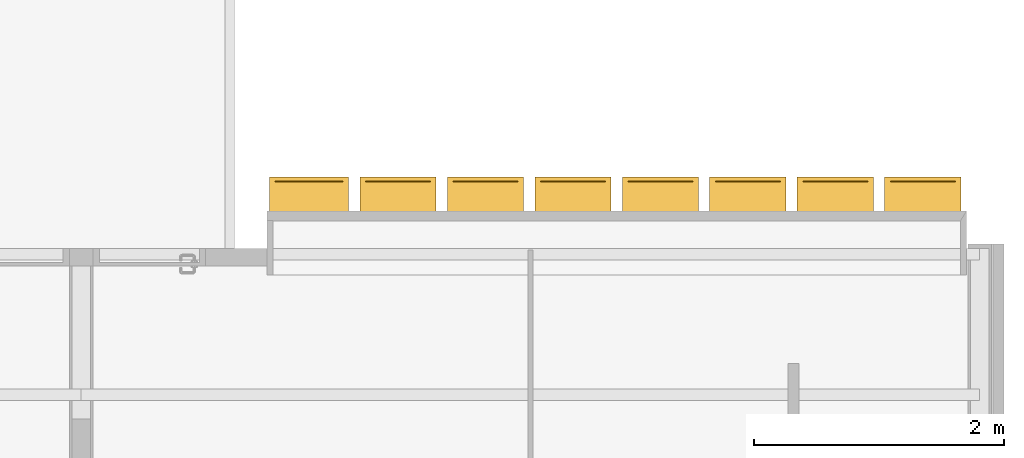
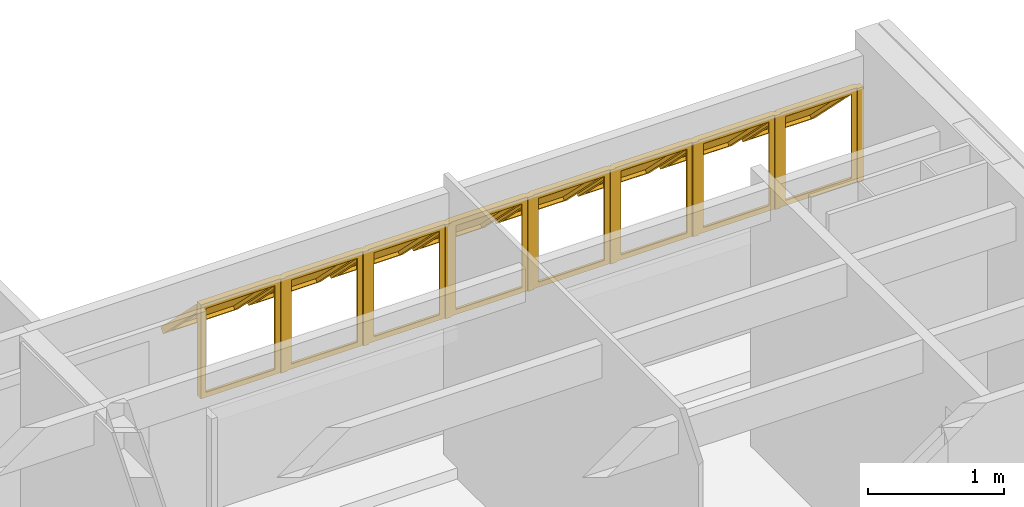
# One storey, part 18 of 22: 1 window.
"""IFC2X3 building model written with IfcOpenShell, lengths in millimetres."""

from ifc_helpers import new_model, si_unit, direction, frame, frame_2d, origin_with_axes, origin_2d_with_axis, place, context, subcontext, project, spatial, polyline, rectangle, outline, extrude, source, transform, mapped, type_object, type_shapes, element, save


model = new_model("IFC2X3")

# Units and contexts
model_context = context("Model", 3, precision=1e-05, world=origin_with_axes(), true_north=direction((0.0, 1.0)))
body_context = subcontext(model_context, "Body", "Model", "MODEL_VIEW")
ifc_project = project(units=[si_unit("LENGTHUNIT", "METRE", prefix="MILLI"), si_unit("AREAUNIT", "SQUARE_METRE"), si_unit("VOLUMEUNIT", "CUBIC_METRE"), si_unit("PLANEANGLEUNIT", "RADIAN"), si_unit("TIMEUNIT", "SECOND"), si_unit("MASSUNIT", "GRAM")], contexts=[model_context])

# Site, building, storey
site_placement = place(None, origin_with_axes())
site = spatial("IfcSite", under=ifc_project, at=site_placement, Name="Site", CompositionType="ELEMENT")
building_placement = place(site_placement, origin_with_axes())
building = spatial("IfcBuilding", under=site, at=building_placement, Name="Construção", CompositionType="COMPLEX")
storey_placement = place(building_placement, frame((0.0, 0.0, 2650.0), z_axis=(0.0, 0.0, 1.0), x_axis=(1.0, 0.0, 0.0)))
storey = spatial("IfcBuildingStorey", under=building, at=storey_placement, Name="Segundo Pavimento", CompositionType="COMPLEX", Elevation=2650.0)

# Window
window_style = type_object("IfcWindowStyle", ConstructionType="NOTDEFINED", OperationType="NOTDEFINED", ParameterTakesPrecedence=False, Sizeable=False)
shared_shape_1 = source(origin_with_axes(), body_context, "Body", "SweptSolid", [
    extrude(outline(polyline([(-324.99999695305, -22.5), (-279.99999695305, 22.5), (279.99999695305, 22.5), (324.99999695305, -22.5), (-324.99999695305, -22.5)])), frame((350.00000059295, 22.5, -40.0), z_axis=(0.0, 0.0, 1.0), x_axis=(1.0, 0.0, 0.0)), (0.0, 0.0, 1.0), 5.0),
    extrude(outline(polyline([(22.5, -422.499945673), (-22.5, -377.499945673), (-22.5, 377.499945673), (22.5, 422.499945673), (22.5, -422.499945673)])), frame((652.499997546, 422.499945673, -40.0), z_axis=(0.0, 0.0, 1.0), x_axis=(1.0, 0.0, 0.0)), (0.0, 0.0, 1.0), 5.0),
    extrude(outline(polyline([(-324.9999969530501, 22.5), (324.99999695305, 22.5), (279.99999695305, -22.5), (-279.9999969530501, -22.5), (-324.9999969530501, 22.5)])), frame((350.0000005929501, 822.499891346, -40.0), z_axis=(0.0, 0.0, 1.0), x_axis=(1.0, 0.0, 0.0)), (0.0, 0.0, 1.0), 5.0),
    extrude(outline(polyline([(-22.5, -422.499945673), (-22.5, 422.499945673), (22.5, 377.499945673), (22.5, -377.499945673), (-22.5, -422.499945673)])), frame((47.5000036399, 422.499945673, -40.0), z_axis=(0.0, 0.0, 1.0), x_axis=(1.0, 0.0, 0.0)), (0.0, 0.0, 1.0), 5.0),
    extrude(outline(polyline([(-324.99999695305, -10.0), (-304.99999695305, 10.0), (304.99999695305, 10.0), (324.99999695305, -10.0), (-324.99999695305, -10.0)])), frame((350.00000059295, 10.0, -35.0), z_axis=(0.0, 0.0, 1.0), x_axis=(1.0, 0.0, 0.0)), (0.0, 0.0, 1.0), 50.0),
    extrude(outline(polyline([(10.0, -422.499945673), (-10.0, -402.499945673), (-10.0, 402.499945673), (10.0, 422.499945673), (10.0, -422.499945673)])), frame((664.999997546, 422.499945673, -35.0), z_axis=(0.0, 0.0, 1.0), x_axis=(1.0, 0.0, 0.0)), (0.0, 0.0, 1.0), 50.0),
    extrude(outline(polyline([(-324.9999969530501, 10.0), (324.99999695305, 10.0), (304.99999695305, -10.0), (-304.9999969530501, -10.0), (-324.9999969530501, 10.0)])), frame((350.0000005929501, 834.999891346, -35.0), z_axis=(0.0, 0.0, 1.0), x_axis=(1.0, 0.0, 0.0)), (0.0, 0.0, 1.0), 50.0),
    extrude(outline(polyline([(-10.0, -422.499945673), (-10.0, 422.499945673), (10.0, 402.499945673), (10.0, -402.499945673), (-10.0, -422.499945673)])), frame((35.0000036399, 422.499945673, -35.0), z_axis=(0.0, 0.0, 1.0), x_axis=(1.0, 0.0, 0.0)), (0.0, 0.0, 1.0), 50.0),
    extrude(rectangle(XDim=844.999891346, YDim=19.99999787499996, at=frame_2d((0.0, 0.0), x_axis=(0.0, 1.0))), frame((684.9999964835, 422.499945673, -10.0), z_axis=(0.0, 0.0, 1.0), x_axis=(1.0, 0.0, 0.0)), (0.0, 0.0, 1.0), 20.0),
    extrude(rectangle(XDim=844.999891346, YDim=19.99999787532, at=frame_2d((0.0, 0.0), x_axis=(0.0, 1.0))), frame((15.00000470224, 422.499945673, -10.0), z_axis=(0.0, 0.0, 1.0), x_axis=(1.0, 0.0, 0.0)), (0.0, 0.0, 1.0), 20.0),
    extrude(outline(polyline([(22.5, -357.4999456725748), (-22.5, -402.4999456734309), (-22.50000000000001, 402.4999456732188), (22.5, 357.499945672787), (22.5, -357.4999456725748)])), frame((67.5000036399, 505.034111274, 264.2551019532), z_axis=(4.714640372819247e-12, 0.7071067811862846, 0.7071067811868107), x_axis=(1.0, 0.0, 0.0)), (0.0, 0.0, 1.0), 55.00000000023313),
    extrude(outline(polyline([(22.5, -402.4999456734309), (-22.5, -357.4999456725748), (-22.50000000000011, 357.499945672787), (22.5, 402.4999456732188), (22.5, -402.4999456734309)])), frame((632.499997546, 505.034111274, 264.2551019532), z_axis=(4.714640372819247e-12, 0.7071067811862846, 0.7071067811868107), x_axis=(1.0, 0.0, 0.0)), (0.0, 0.0, 1.0), 55.00000000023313),
    extrude(outline(polyline([(304.99999695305, -22.50000000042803), (-304.9999969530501, -22.50000000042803), (-259.9999969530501, 22.50000000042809), (259.99999695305, 22.50000000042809), (304.99999695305, -22.50000000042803)])), frame((350.00000059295, 236.333572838, 532.955640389), z_axis=(4.714640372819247e-12, 0.7071067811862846, 0.7071067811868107), x_axis=(1.0, 0.0, 0.0)), (0.0, 0.0, 1.0), 55.00000000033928),
    extrude(outline(polyline([(-304.9999969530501, 22.500000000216), (304.99999695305, 22.500000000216), (259.99999695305, -22.500000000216), (-259.9999969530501, -22.500000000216), (-304.9999969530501, 22.500000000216)])), frame((350.0000005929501, 773.73464971, -4.4454364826), z_axis=(4.714640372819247e-12, 0.7071067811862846, 0.7071067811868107), x_axis=(1.0, 0.0, 0.0)), (0.0, 0.0, 1.0), 55.00000000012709),
])
shared_shape_2 = source(origin_with_axes(), body_context, "Body", "SweptSolid", [
    extrude(rectangle(XDim=519.9999939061, YDim=16.00000000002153, at=origin_2d_with_axis()), frame((350.00000059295, 783.9876980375, 37.627416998), z_axis=(0.0, -0.7071067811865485, 0.7071067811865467), x_axis=(1.0, 0.0, 0.0)), (0.0, 0.0, 1.0), 714.9998913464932),
])
shared_shape_3 = source(origin_with_axes(), body_context, "Body", "MappedRepresentation", [
    mapped(shared_shape_1, transform((12370.0, 8250.0, 4005.00007107), x_axis=(-1.0, 0.0, 0.0), y_axis=(0.0, 0.0, 1.0), z_axis=(0.0, 1.0, 0.0), scale=1.0)),
    mapped(shared_shape_2, transform((12370.0, 8250.0, 4005.00007107), x_axis=(-1.0, 0.0, 0.0), y_axis=(0.0, 0.0, 1.0), z_axis=(0.0, 1.0, 0.0), scale=1.0)),
])
shared_shape_4 = source(origin_with_axes(), body_context, "Body", "MappedRepresentation", [
    mapped(shared_shape_1, transform((10270.0, 8250.0, 4005.00007107), x_axis=(-1.0, 0.0, 0.0), y_axis=(0.0, 0.0, 1.0), z_axis=(0.0, 1.0, 0.0), scale=1.0)),
    mapped(shared_shape_2, transform((10270.0, 8250.0, 4005.00007107), x_axis=(-1.0, 0.0, 0.0), y_axis=(0.0, 0.0, 1.0), z_axis=(0.0, 1.0, 0.0), scale=1.0)),
])
shared_shape_5 = source(origin_with_axes(), body_context, "Body", "SweptSolid", [
    extrude(outline(polyline([(-324.99999695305, -22.5), (-279.99999695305, 22.5), (279.99999695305, 22.5), (324.99999695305, -22.5), (-324.99999695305, -22.5)])), frame((350.00000059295, 22.5, -40.0), z_axis=(0.0, 0.0, 1.0), x_axis=(1.0, 0.0, 0.0)), (0.0, 0.0, 1.0), 5.0),
    extrude(outline(polyline([(22.5, -422.499945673), (-22.5, -377.499945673), (-22.5, 377.499945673), (22.5, 422.499945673), (22.5, -422.499945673)])), frame((652.499997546, 422.499945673, -40.0), z_axis=(0.0, 0.0, 1.0), x_axis=(1.0, 0.0, 0.0)), (0.0, 0.0, 1.0), 5.0),
    extrude(outline(polyline([(-324.9999969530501, 22.5), (324.99999695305, 22.5), (279.99999695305, -22.5), (-279.9999969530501, -22.5), (-324.9999969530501, 22.5)])), frame((350.0000005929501, 822.499891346, -40.0), z_axis=(0.0, 0.0, 1.0), x_axis=(1.0, 0.0, 0.0)), (0.0, 0.0, 1.0), 5.0),
    extrude(outline(polyline([(-22.5, -422.499945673), (-22.5, 422.499945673), (22.5, 377.499945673), (22.5, -377.499945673), (-22.5, -422.499945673)])), frame((47.5000036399, 422.499945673, -40.0), z_axis=(0.0, 0.0, 1.0), x_axis=(1.0, 0.0, 0.0)), (0.0, 0.0, 1.0), 5.0),
    extrude(outline(polyline([(-324.99999695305, -10.0), (-304.99999695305, 10.0), (304.99999695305, 10.0), (324.99999695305, -10.0), (-324.99999695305, -10.0)])), frame((350.00000059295, 10.0, -35.0), z_axis=(0.0, 0.0, 1.0), x_axis=(1.0, 0.0, 0.0)), (0.0, 0.0, 1.0), 50.0),
    extrude(outline(polyline([(10.0, -422.499945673), (-10.0, -402.499945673), (-10.0, 402.499945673), (10.0, 422.499945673), (10.0, -422.499945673)])), frame((664.999997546, 422.499945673, -35.0), z_axis=(0.0, 0.0, 1.0), x_axis=(1.0, 0.0, 0.0)), (0.0, 0.0, 1.0), 50.0),
    extrude(outline(polyline([(-324.9999969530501, 10.0), (324.99999695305, 10.0), (304.99999695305, -10.0), (-304.9999969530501, -10.0), (-324.9999969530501, 10.0)])), frame((350.0000005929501, 834.999891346, -35.0), z_axis=(0.0, 0.0, 1.0), x_axis=(1.0, 0.0, 0.0)), (0.0, 0.0, 1.0), 50.0),
    extrude(outline(polyline([(-10.0, -422.499945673), (-10.0, 422.499945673), (10.0, 402.499945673), (10.0, -402.499945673), (-10.0, -422.499945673)])), frame((35.0000036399, 422.499945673, -35.0), z_axis=(0.0, 0.0, 1.0), x_axis=(1.0, 0.0, 0.0)), (0.0, 0.0, 1.0), 50.0),
    extrude(rectangle(XDim=844.999891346, YDim=19.99999787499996, at=frame_2d((0.0, 0.0), x_axis=(0.0, 1.0))), frame((684.9999964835, 422.499945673, -10.0), z_axis=(0.0, 0.0, 1.0), x_axis=(1.0, 0.0, 0.0)), (0.0, 0.0, 1.0), 20.0),
    extrude(rectangle(XDim=844.999891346, YDim=19.99999787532, at=frame_2d((0.0, 0.0), x_axis=(0.0, 1.0))), frame((15.00000470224, 422.499945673, -10.0), z_axis=(0.0, 0.0, 1.0), x_axis=(1.0, 0.0, 0.0)), (0.0, 0.0, 1.0), 20.0),
    extrude(outline(polyline([(22.5, -357.4999456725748), (-22.5, -402.4999456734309), (-22.50000000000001, 402.4999456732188), (22.5, 357.499945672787), (22.5, -357.4999456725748)])), frame((67.5000036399, 505.034111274, 264.2551019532), z_axis=(4.714640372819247e-12, 0.7071067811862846, 0.7071067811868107), x_axis=(1.0, 0.0, 0.0)), (0.0, 0.0, 1.0), 55.00000000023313),
    extrude(outline(polyline([(22.5, -402.4999456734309), (-22.5, -357.4999456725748), (-22.50000000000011, 357.499945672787), (22.5, 402.4999456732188), (22.5, -402.4999456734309)])), frame((632.499997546, 505.034111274, 264.2551019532), z_axis=(4.714640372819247e-12, 0.7071067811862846, 0.7071067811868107), x_axis=(1.0, 0.0, 0.0)), (0.0, 0.0, 1.0), 55.00000000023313),
    extrude(outline(polyline([(304.99999695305, -22.50000000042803), (-304.9999969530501, -22.50000000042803), (-259.9999969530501, 22.50000000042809), (259.99999695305, 22.50000000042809), (304.99999695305, -22.50000000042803)])), frame((350.00000059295, 236.333572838, 532.955640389), z_axis=(4.714640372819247e-12, 0.7071067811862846, 0.7071067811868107), x_axis=(1.0, 0.0, 0.0)), (0.0, 0.0, 1.0), 55.00000000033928),
    extrude(outline(polyline([(-304.9999969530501, 22.500000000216), (304.99999695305, 22.500000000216), (259.99999695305, -22.500000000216), (-259.9999969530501, -22.500000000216), (-304.9999969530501, 22.500000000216)])), frame((350.0000005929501, 773.73464971, -4.4454364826), z_axis=(4.714640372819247e-12, 0.7071067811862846, 0.7071067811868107), x_axis=(1.0, 0.0, 0.0)), (0.0, 0.0, 1.0), 55.00000000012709),
])
shared_shape_6 = source(origin_with_axes(), body_context, "Body", "SweptSolid", [
    extrude(rectangle(XDim=519.9999939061, YDim=16.00000000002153, at=origin_2d_with_axis()), frame((350.00000059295, 783.9876980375, 37.627416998), z_axis=(0.0, -0.7071067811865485, 0.7071067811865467), x_axis=(1.0, 0.0, 0.0)), (0.0, 0.0, 1.0), 714.9998913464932),
])
shared_shape_7 = source(origin_with_axes(), body_context, "Body", "MappedRepresentation", [
    mapped(shared_shape_5, transform((14470.0, 8250.0, 4005.00007107), x_axis=(-1.0, 0.0, 0.0), y_axis=(0.0, 0.0, 1.0), z_axis=(0.0, 1.0, 0.0), scale=1.0)),
    mapped(shared_shape_6, transform((14470.0, 8250.0, 4005.00007107), x_axis=(-1.0, 0.0, 0.0), y_axis=(0.0, 0.0, 1.0), z_axis=(0.0, 1.0, 0.0), scale=1.0)),
])
shared_shape_8 = source(origin_with_axes(), body_context, "Body", "MappedRepresentation", [
    mapped(shared_shape_5, transform((13770.0, 8250.0, 4005.00007107), x_axis=(-1.0, 0.0, 0.0), y_axis=(0.0, 0.0, 1.0), z_axis=(0.0, 1.0, 0.0), scale=1.0)),
    mapped(shared_shape_6, transform((13770.0, 8250.0, 4005.00007107), x_axis=(-1.0, 0.0, 0.0), y_axis=(0.0, 0.0, 1.0), z_axis=(0.0, 1.0, 0.0), scale=1.0)),
])
shared_shape_9 = source(origin_with_axes(), body_context, "Body", "SweptSolid", [
    extrude(outline(polyline([(-324.99999695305, -22.5), (-279.99999695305, 22.5), (279.99999695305, 22.5), (324.99999695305, -22.5), (-324.99999695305, -22.5)])), frame((350.00000059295, 22.5, -40.0), z_axis=(0.0, 0.0, 1.0), x_axis=(1.0, 0.0, 0.0)), (0.0, 0.0, 1.0), 5.0),
    extrude(outline(polyline([(22.5, -422.499945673), (-22.5, -377.499945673), (-22.5, 377.499945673), (22.5, 422.499945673), (22.5, -422.499945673)])), frame((652.499997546, 422.499945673, -40.0), z_axis=(0.0, 0.0, 1.0), x_axis=(1.0, 0.0, 0.0)), (0.0, 0.0, 1.0), 5.0),
    extrude(outline(polyline([(-324.9999969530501, 22.5), (324.99999695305, 22.5), (279.99999695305, -22.5), (-279.9999969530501, -22.5), (-324.9999969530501, 22.5)])), frame((350.0000005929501, 822.499891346, -40.0), z_axis=(0.0, 0.0, 1.0), x_axis=(1.0, 0.0, 0.0)), (0.0, 0.0, 1.0), 5.0),
    extrude(outline(polyline([(-22.5, -422.499945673), (-22.5, 422.499945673), (22.5, 377.499945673), (22.5, -377.499945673), (-22.5, -422.499945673)])), frame((47.5000036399, 422.499945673, -40.0), z_axis=(0.0, 0.0, 1.0), x_axis=(1.0, 0.0, 0.0)), (0.0, 0.0, 1.0), 5.0),
    extrude(outline(polyline([(-324.99999695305, -10.0), (-304.99999695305, 10.0), (304.99999695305, 10.0), (324.99999695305, -10.0), (-324.99999695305, -10.0)])), frame((350.00000059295, 10.0, -35.0), z_axis=(0.0, 0.0, 1.0), x_axis=(1.0, 0.0, 0.0)), (0.0, 0.0, 1.0), 50.0),
    extrude(outline(polyline([(10.0, -422.499945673), (-10.0, -402.499945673), (-10.0, 402.499945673), (10.0, 422.499945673), (10.0, -422.499945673)])), frame((664.999997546, 422.499945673, -35.0), z_axis=(0.0, 0.0, 1.0), x_axis=(1.0, 0.0, 0.0)), (0.0, 0.0, 1.0), 50.0),
    extrude(outline(polyline([(-324.9999969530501, 10.0), (324.99999695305, 10.0), (304.99999695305, -10.0), (-304.9999969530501, -10.0), (-324.9999969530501, 10.0)])), frame((350.0000005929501, 834.999891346, -35.0), z_axis=(0.0, 0.0, 1.0), x_axis=(1.0, 0.0, 0.0)), (0.0, 0.0, 1.0), 50.0),
    extrude(outline(polyline([(-10.0, -422.499945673), (-10.0, 422.499945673), (10.0, 402.499945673), (10.0, -402.499945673), (-10.0, -422.499945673)])), frame((35.0000036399, 422.499945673, -35.0), z_axis=(0.0, 0.0, 1.0), x_axis=(1.0, 0.0, 0.0)), (0.0, 0.0, 1.0), 50.0),
    extrude(rectangle(XDim=844.999891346, YDim=19.99999787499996, at=frame_2d((0.0, 0.0), x_axis=(0.0, 1.0))), frame((684.9999964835, 422.499945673, -10.0), z_axis=(0.0, 0.0, 1.0), x_axis=(1.0, 0.0, 0.0)), (0.0, 0.0, 1.0), 20.0),
    extrude(rectangle(XDim=844.999891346, YDim=19.99999787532, at=frame_2d((0.0, 0.0), x_axis=(0.0, 1.0))), frame((15.00000470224, 422.499945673, -10.0), z_axis=(0.0, 0.0, 1.0), x_axis=(1.0, 0.0, 0.0)), (0.0, 0.0, 1.0), 20.0),
    extrude(outline(polyline([(22.5, -357.4999456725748), (-22.5, -402.4999456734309), (-22.50000000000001, 402.4999456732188), (22.5, 357.499945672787), (22.5, -357.4999456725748)])), frame((67.5000036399, 505.034111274, 264.2551019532), z_axis=(4.714640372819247e-12, 0.7071067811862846, 0.7071067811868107), x_axis=(1.0, 0.0, 0.0)), (0.0, 0.0, 1.0), 55.00000000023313),
    extrude(outline(polyline([(22.5, -402.4999456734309), (-22.5, -357.4999456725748), (-22.50000000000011, 357.499945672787), (22.5, 402.4999456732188), (22.5, -402.4999456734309)])), frame((632.499997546, 505.034111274, 264.2551019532), z_axis=(4.714640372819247e-12, 0.7071067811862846, 0.7071067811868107), x_axis=(1.0, 0.0, 0.0)), (0.0, 0.0, 1.0), 55.00000000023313),
    extrude(outline(polyline([(304.99999695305, -22.50000000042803), (-304.9999969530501, -22.50000000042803), (-259.9999969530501, 22.50000000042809), (259.99999695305, 22.50000000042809), (304.99999695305, -22.50000000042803)])), frame((350.00000059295, 236.333572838, 532.955640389), z_axis=(4.714640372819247e-12, 0.7071067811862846, 0.7071067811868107), x_axis=(1.0, 0.0, 0.0)), (0.0, 0.0, 1.0), 55.00000000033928),
    extrude(outline(polyline([(-304.9999969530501, 22.500000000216), (304.99999695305, 22.500000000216), (259.99999695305, -22.500000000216), (-259.9999969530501, -22.500000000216), (-304.9999969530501, 22.500000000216)])), frame((350.0000005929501, 773.73464971, -4.4454364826), z_axis=(4.714640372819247e-12, 0.7071067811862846, 0.7071067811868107), x_axis=(1.0, 0.0, 0.0)), (0.0, 0.0, 1.0), 55.00000000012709),
])
shared_shape_10 = source(origin_with_axes(), body_context, "Body", "SweptSolid", [
    extrude(rectangle(XDim=519.9999939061, YDim=16.00000000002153, at=origin_2d_with_axis()), frame((350.00000059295, 783.9876980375, 37.627416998), z_axis=(0.0, -0.7071067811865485, 0.7071067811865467), x_axis=(1.0, 0.0, 0.0)), (0.0, 0.0, 1.0), 714.9998913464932),
])
shared_shape_11 = source(origin_with_axes(), body_context, "Body", "MappedRepresentation", [
    mapped(shared_shape_9, transform((11670.0, 8250.0, 4005.00007107), x_axis=(-1.0, 0.0, 0.0), y_axis=(0.0, 0.0, 1.0), z_axis=(0.0, 1.0, 0.0), scale=1.0)),
    mapped(shared_shape_10, transform((11670.0, 8250.0, 4005.00007107), x_axis=(-1.0, 0.0, 0.0), y_axis=(0.0, 0.0, 1.0), z_axis=(0.0, 1.0, 0.0), scale=1.0)),
])
shared_shape_12 = source(origin_with_axes(), body_context, "Body", "MappedRepresentation", [
    mapped(shared_shape_5, transform((10970.0, 8250.0, 4005.00007107), x_axis=(-1.0, 0.0, 0.0), y_axis=(0.0, 0.0, 1.0), z_axis=(0.0, 1.0, 0.0), scale=1.0)),
    mapped(shared_shape_6, transform((10970.0, 8250.0, 4005.00007107), x_axis=(-1.0, 0.0, 0.0), y_axis=(0.0, 0.0, 1.0), z_axis=(0.0, 1.0, 0.0), scale=1.0)),
])
shared_shape_13 = source(origin_with_axes(), body_context, "Body", "SweptSolid", [
    extrude(outline(polyline([(-337.49999657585, -22.5), (-292.49999657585, 22.5), (292.49999657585, 22.5), (337.49999657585, -22.5), (-337.49999657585, -22.5)])), frame((362.50000285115, 22.5, -40.0), z_axis=(0.0, 0.0, 1.0), x_axis=(1.0, 0.0, 0.0)), (0.0, 0.0, 1.0), 5.0),
    extrude(outline(polyline([(22.5, -422.4999902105), (-22.5, -377.4999902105), (-22.5, 377.4999902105), (22.5, 422.4999902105), (22.5, -422.4999902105)])), frame((677.499999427, 422.4999902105, -40.0), z_axis=(0.0, 0.0, 1.0), x_axis=(1.0, 0.0, 0.0)), (0.0, 0.0, 1.0), 5.0),
    extrude(outline(polyline([(-337.49999657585, 22.5), (337.49999657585, 22.5), (292.49999657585, -22.5), (-292.49999657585, -22.5), (-337.49999657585, 22.5)])), frame((362.50000285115, 822.499980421, -40.0), z_axis=(0.0, 0.0, 1.0), x_axis=(1.0, 0.0, 0.0)), (0.0, 0.0, 1.0), 5.0),
    extrude(outline(polyline([(-22.5, -422.4999902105), (-22.5, 422.4999902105), (22.5, 377.4999902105), (22.5, -377.4999902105), (-22.5, -422.4999902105)])), frame((47.5000062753, 422.4999902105, -40.0), z_axis=(0.0, 0.0, 1.0), x_axis=(1.0, 0.0, 0.0)), (0.0, 0.0, 1.0), 5.0),
    extrude(outline(polyline([(-337.49999657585, -10.0), (-317.49999657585, 10.0), (317.49999657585, 10.0), (337.49999657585, -10.0), (-337.49999657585, -10.0)])), frame((362.50000285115, 10.0, -35.0), z_axis=(0.0, 0.0, 1.0), x_axis=(1.0, 0.0, 0.0)), (0.0, 0.0, 1.0), 50.0),
    extrude(outline(polyline([(10.0, -422.4999902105), (-10.0, -402.4999902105), (-10.0, 402.4999902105), (10.0, 422.4999902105), (10.0, -422.4999902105)])), frame((689.999999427, 422.4999902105, -35.0), z_axis=(0.0, 0.0, 1.0), x_axis=(1.0, 0.0, 0.0)), (0.0, 0.0, 1.0), 50.0),
    extrude(outline(polyline([(-337.49999657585, 10.0), (337.49999657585, 10.0), (317.49999657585, -10.0), (-317.49999657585, -10.0), (-337.49999657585, 10.0)])), frame((362.50000285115, 834.999980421, -35.0), z_axis=(0.0, 0.0, 1.0), x_axis=(1.0, 0.0, 0.0)), (0.0, 0.0, 1.0), 50.0),
    extrude(outline(polyline([(-10.0, -422.4999902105), (-10.0, 422.4999902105), (10.0, 402.4999902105), (10.0, -402.4999902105), (-10.0, -422.4999902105)])), frame((35.0000062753, 422.4999902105, -35.0), z_axis=(0.0, 0.0, 1.0), x_axis=(1.0, 0.0, 0.0)), (0.0, 0.0, 1.0), 50.0),
    extrude(rectangle(XDim=844.999980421, YDim=19.99999998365, at=frame_2d((0.0, 0.0), x_axis=(0.0, 1.0))), frame((15.000006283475, 422.4999902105, -10.0), z_axis=(0.0, 0.0, 1.0), x_axis=(1.0, 0.0, 0.0)), (0.0, 0.0, 1.0), 20.0),
    extrude(outline(polyline([(22.50000000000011, -357.4999902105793), (-22.5, -402.4999902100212), (-22.5, 402.4999902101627), (22.50000000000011, 357.4999902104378), (22.50000000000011, -357.4999902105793)])), frame((67.5000062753, 505.034168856, 264.25513344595), z_axis=(4.714640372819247e-12, 0.7071067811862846, 0.7071067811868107), x_axis=(1.0, 0.0, 0.0)), (0.0, 0.0, 1.0), 54.99999999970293),
    extrude(outline(polyline([(22.50000000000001, -402.4999902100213), (-22.49999999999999, -357.4999902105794), (-22.49999999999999, 357.4999902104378), (22.50000000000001, 402.4999902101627), (22.50000000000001, -402.4999902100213)])), frame((657.499999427, 505.034168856, 264.25513344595), z_axis=(4.714640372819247e-12, 0.7071067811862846, 0.7071067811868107), x_axis=(1.0, 0.0, 0.0)), (0.0, 0.0, 1.0), 54.99999999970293),
    extrude(outline(polyline([(317.49999657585, -22.49999999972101), (-317.49999657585, -22.49999999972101), (-272.49999657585, 22.49999999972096), (272.49999657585, 22.49999999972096), (317.49999657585, -22.49999999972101)])), frame((362.50000285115, 236.3335989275, 532.9557033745), z_axis=(4.714640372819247e-12, 0.7071067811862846, 0.7071067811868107), x_axis=(1.0, 0.0, 0.0)), (0.0, 0.0, 1.0), 54.9999999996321),
    extrude(outline(polyline([(-317.49999657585, 22.49999999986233), (317.49999657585, 22.49999999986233), (272.49999657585, -22.49999999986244), (-272.49999657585, -22.49999999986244), (-317.49999657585, 22.49999999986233)])), frame((362.50000285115, 773.7347387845, -4.4454364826), z_axis=(4.714640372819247e-12, 0.7071067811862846, 0.7071067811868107), x_axis=(1.0, 0.0, 0.0)), (0.0, 0.0, 1.0), 54.99999999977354),
])
shared_shape_14 = source(origin_with_axes(), body_context, "Body", "SweptSolid", [
    extrude(rectangle(XDim=544.9999931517, YDim=16.00000000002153, at=origin_2d_with_axis()), frame((362.50000285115, 783.9877871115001, 37.627416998), z_axis=(0.0, -0.7071067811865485, 0.7071067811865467), x_axis=(1.0, 0.0, 0.0)), (0.0, 0.0, 1.0), 714.9999804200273),
])
shared_shape_15 = source(origin_with_axes(), body_context, "Body", "MappedRepresentation", [
    mapped(shared_shape_13, transform((9570.0, 8250.0, 4005.00007107), x_axis=(-1.0, 0.0, 0.0), y_axis=(0.0, 0.0, 1.0), z_axis=(0.0, 1.0, 0.0), scale=1.0)),
    mapped(shared_shape_14, transform((9570.0, 8250.0, 4005.00007107), x_axis=(-1.0, 0.0, 0.0), y_axis=(0.0, 0.0, 1.0), z_axis=(0.0, 1.0, 0.0), scale=1.0)),
])
shared_shape_16 = source(origin_with_axes(), body_context, "Body", "MappedRepresentation", [
    mapped(shared_shape_9, transform((13070.0, 8250.0, 4005.00007107), x_axis=(-1.0, 0.0, 0.0), y_axis=(0.0, 0.0, 1.0), z_axis=(0.0, 1.0, 0.0), scale=1.0)),
    mapped(shared_shape_10, transform((13070.0, 8250.0, 4005.00007107), x_axis=(-1.0, 0.0, 0.0), y_axis=(0.0, 0.0, 1.0), z_axis=(0.0, 1.0, 0.0), scale=1.0)),
])
shared_shape_17 = source(origin_with_axes(), body_context, "Body", "SweptSolid", [
    extrude(rectangle(XDim=844.999891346, YDim=50.0, at=frame_2d((0.0, 0.0), x_axis=(0.0, 1.0))), frame((3525.0, 422.4999456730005, -637.7564789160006), z_axis=(0.0, 0.0, 1.0), x_axis=(1.0, 0.0, 0.0)), (0.0, 0.0, 1.0), 50.0),
])
shared_shape_18 = source(origin_with_axes(), body_context, "Body", "SweptSolid", [
    extrude(rectangle(XDim=844.999891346, YDim=50.0, at=frame_2d((0.0, 0.0), x_axis=(0.0, 1.0))), frame((4225.0, 422.4999456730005, -637.7564789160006), z_axis=(0.0, 0.0, 1.0), x_axis=(1.0, 0.0, 0.0)), (0.0, 0.0, 1.0), 50.0),
])
shared_shape_19 = source(origin_with_axes(), body_context, "Body", "SweptSolid", [
    extrude(rectangle(XDim=844.999891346, YDim=50.0, at=frame_2d((0.0, 0.0), x_axis=(0.0, 1.0))), frame((4925.0, 422.4999456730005, -637.7564789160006), z_axis=(0.0, 0.0, 1.0), x_axis=(1.0, 0.0, 0.0)), (0.0, 0.0, 1.0), 50.0),
])
shared_shape_20 = source(origin_with_axes(), body_context, "Body", "SweptSolid", [
    extrude(rectangle(XDim=844.999891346, YDim=50.0, at=frame_2d((0.0, 0.0), x_axis=(0.0, 1.0))), frame((2125.0, 422.4999456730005, -637.7564789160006), z_axis=(0.0, 0.0, 1.0), x_axis=(1.0, 0.0, 0.0)), (0.0, 0.0, 1.0), 50.0),
])
shared_shape_21 = source(origin_with_axes(), body_context, "Body", "SweptSolid", [
    extrude(rectangle(XDim=844.999891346, YDim=50.0, at=frame_2d((0.0, 0.0), x_axis=(0.0, 1.0))), frame((25.0, 422.4999456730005, -637.7564789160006), z_axis=(0.0, 0.0, 1.0), x_axis=(1.0, 0.0, 0.0)), (0.0, 0.0, 1.0), 50.0),
])
shared_shape_22 = source(origin_with_axes(), body_context, "Body", "SweptSolid", [
    extrude(rectangle(XDim=844.999891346, YDim=50.0, at=frame_2d((0.0, 0.0), x_axis=(0.0, 1.0))), frame((2825.0, 422.4999456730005, -637.7564789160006), z_axis=(0.0, 0.0, 1.0), x_axis=(1.0, 0.0, 0.0)), (0.0, 0.0, 1.0), 50.0),
])
shared_shape_23 = source(origin_with_axes(), body_context, "Body", "SweptSolid", [
    extrude(rectangle(XDim=844.999891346, YDim=50.0, at=frame_2d((0.0, 0.0), x_axis=(0.0, 1.0))), frame((1425.0, 422.4999456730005, -637.7564789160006), z_axis=(0.0, 0.0, 1.0), x_axis=(1.0, 0.0, 0.0)), (0.0, 0.0, 1.0), 50.0),
])
shared_shape_24 = source(origin_with_axes(), body_context, "Body", "SweptSolid", [
    extrude(rectangle(XDim=844.999891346, YDim=50.0, at=frame_2d((0.0, 0.0), x_axis=(0.0, 1.0))), frame((725.0, 422.4999456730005, -637.7564789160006), z_axis=(0.0, 0.0, 1.0), x_axis=(1.0, 0.0, 0.0)), (0.0, 0.0, 1.0), 50.0),
])
shared_shape_25 = source(origin_with_axes(), body_context, "Body", "MappedRepresentation", [
    mapped(shared_shape_3, transform((14495.0, -4005.00007107, -8837.756478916), x_axis=(-1.0, 0.0, 0.0), y_axis=(0.0, 0.0, 1.0), z_axis=(0.0, 1.0, 0.0), scale=1.0)),
    mapped(shared_shape_4, transform((14495.0, -4005.00007107, -8837.756478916), x_axis=(-1.0, 0.0, 0.0), y_axis=(0.0, 0.0, 1.0), z_axis=(0.0, 1.0, 0.0), scale=1.0)),
    mapped(shared_shape_7, transform((14495.0, -4005.00007107, -8837.756478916), x_axis=(-1.0, 0.0, 0.0), y_axis=(0.0, 0.0, 1.0), z_axis=(0.0, 1.0, 0.0), scale=1.0)),
    mapped(shared_shape_8, transform((14495.0, -4005.00007107, -8837.756478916), x_axis=(-1.0, 0.0, 0.0), y_axis=(0.0, 0.0, 1.0), z_axis=(0.0, 1.0, 0.0), scale=1.0)),
    mapped(shared_shape_11, transform((14495.0, -4005.00007107, -8837.756478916), x_axis=(-1.0, 0.0, 0.0), y_axis=(0.0, 0.0, 1.0), z_axis=(0.0, 1.0, 0.0), scale=1.0)),
    mapped(shared_shape_12, transform((14495.0, -4005.00007107, -8837.756478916), x_axis=(-1.0, 0.0, 0.0), y_axis=(0.0, 0.0, 1.0), z_axis=(0.0, 1.0, 0.0), scale=1.0)),
    mapped(shared_shape_15, transform((14495.0, -4005.00007107, -8837.756478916), x_axis=(-1.0, 0.0, 0.0), y_axis=(0.0, 0.0, 1.0), z_axis=(0.0, 1.0, 0.0), scale=1.0)),
    mapped(shared_shape_16, transform((14495.0, -4005.00007107, -8837.756478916), x_axis=(-1.0, 0.0, 0.0), y_axis=(0.0, 0.0, 1.0), z_axis=(0.0, 1.0, 0.0), scale=1.0)),
    mapped(shared_shape_17, transform((0.0, 0.0, 0.0))),
    mapped(shared_shape_18, transform((0.0, 0.0, 0.0))),
    mapped(shared_shape_19, transform((0.0, 0.0, 0.0))),
    mapped(shared_shape_20, transform((0.0, 0.0, 0.0))),
    mapped(shared_shape_21, transform((0.0, 0.0, 0.0))),
    mapped(shared_shape_22, transform((0.0, 0.0, 0.0))),
    mapped(shared_shape_23, transform((0.0, 0.0, 0.0))),
    mapped(shared_shape_24, transform((0.0, 0.0, 0.0))),
])
type_shapes(window_style, [shared_shape_25])
window_placement = place(storey_placement, frame((14495.0, 8837.756478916, 1355.00007107), z_axis=(0.0, 0.0, 1.0), x_axis=(-1.0, 0.0, 0.0)))
element("IfcWindow", 1, at=window_placement, inside=storey, type_object=window_style, Name="APTO6-JANELA-000", context=body_context, shape_type="MappedRepresentation", body=[
    mapped(shared_shape_25, transform((0.0, 0.0, 0.0), x_axis=(1.0, 0.0, 0.0), y_axis=(0.0, 0.0, 1.0), z_axis=(0.0, -1.0, 0.0), scale=1.0)),
])

save(model, "model.ifc")
